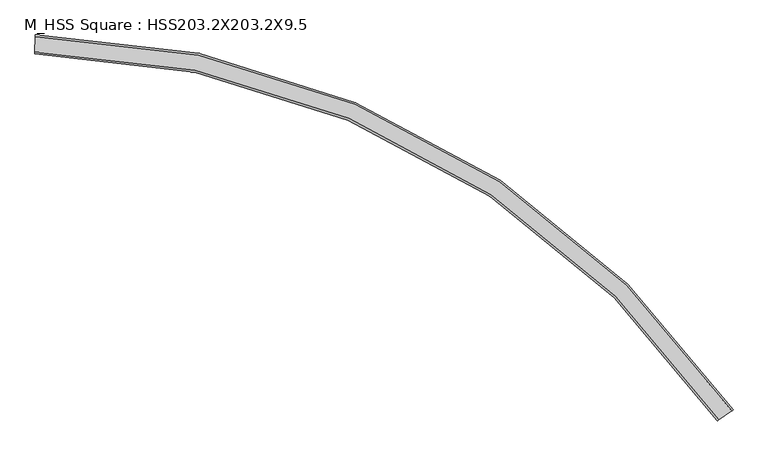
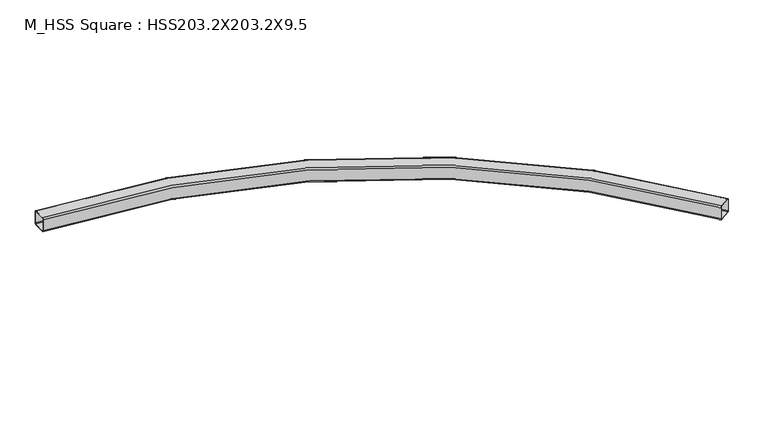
"""IFC4 building model written with IfcOpenShell, lengths in millimetres: beam geometry, M_HSS Square : HSS203.2X203.2X9.5."""

from ifc_helpers import new_model, si_unit, point, frame, origin, place, context, project, spatial, polyline, circle_curve, ellipse_curve, trimmed, source, transform, mapped, element, save
from ifc_brep_helpers import plane_surface, cylinder_surface, revolved_surface, advanced_brep


def m_hss_square_hss203_2x203_2x9_5_28e91a4e(model_context):
    return source(origin(), model_context, "Body", "AdvancedBrep", [
        advanced_brep(
        [(163.5555169, -102.979176, 82.44), (163.9002413, -83.9222937, 101.5), (166.8823064, 80.9307369, 101.5), (167.2270308, 99.9876192, 82.44), (167.2270308, 99.9876192, -82.44), (166.8823064, 80.9307369, -101.5), (163.9002413, -83.9222937, -101.5), (163.5555169, -102.979176, -82.44), (166.8823064, 80.9307369, 91.97), (163.9002413, -83.9222937, 91.97), (163.7278791, -93.4507349, 82.44), (163.7278791, -93.4507349, -82.44), (163.9002413, -83.9222937, -91.97), (166.8823064, 80.9307369, -91.97), (167.0546686, 90.4591781, -82.44), (167.0546686, 90.4591781, 82.44), (7450.0863149, -4018.815879, 82.44), (7450.0863149, -4018.815879, -82.44), (7465.7887912, -4008.0123685, -101.5), (7601.6242734, -3914.5557681, -101.5), (7617.3267497, -3903.7522576, -82.44), (7617.3267497, -3903.7522576, 82.44), (7601.6242734, -3914.5557681, 101.5), (7465.7887912, -4008.0123685, 101.5), (7601.6242734, -3914.5557681, 91.97), (7609.4755116, -3909.1540128, 82.44), (7609.4755116, -3909.1540128, -82.44), (7601.6242734, -3914.5557681, -91.97), (7465.7887912, -4008.0123685, -91.97), (7457.9375531, -4013.4141238, -82.44), (7457.9375531, -4013.4141238, 82.44), (7465.7887912, -4008.0123685, 91.97)],
        [
            (0, 1, circle_curve(frame((163.9002413, -83.9222937, 82.44), z_axis=(-0.9998364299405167, 0.01808627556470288, 0.0), x_axis=(0.01808627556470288, 0.9998364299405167, 0.0)), 19.06)),
            (1, 2),
            (2, 3, circle_curve(frame((166.8823064, 80.9307369, 82.44), z_axis=(-0.9998364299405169, 0.018086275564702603, 0.0), x_axis=(0.018086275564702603, 0.9998364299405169, 0.0)), 19.06)),
            (3, 4),
            (4, 5, circle_curve(frame((166.8823064, 80.9307369, -82.44), z_axis=(-0.9998364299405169, 0.018086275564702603, 0.0), x_axis=(0.018086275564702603, 0.9998364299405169, 0.0)), 19.06)),
            (5, 6),
            (6, 7, circle_curve(frame((163.9002413, -83.9222937, -82.44), z_axis=(-0.9998364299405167, 0.01808627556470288, 0.0), x_axis=(0.01808627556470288, 0.9998364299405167, 0.0)), 19.06)),
            (7, 0),
            (8, 9),
            (9, 10, circle_curve(frame((163.9002413, -83.9222937, 82.44), z_axis=(0.9998364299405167, -0.01808627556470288, 0.0), x_axis=(0.01808627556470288, 0.9998364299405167, 0.0)), 9.53)),
            (10, 11),
            (11, 12, circle_curve(frame((163.9002413, -83.9222937, -82.44), z_axis=(0.9998364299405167, -0.01808627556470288, 0.0), x_axis=(0.01808627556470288, 0.9998364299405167, 0.0)), 9.53)),
            (12, 13),
            (13, 14, circle_curve(frame((166.8823064, 80.9307369, -82.44), z_axis=(0.9998364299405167, -0.01808627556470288, 0.0), x_axis=(0.01808627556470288, 0.9998364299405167, 0.0)), 9.53)),
            (14, 15),
            (15, 8, circle_curve(frame((166.8823064, 80.9307369, 82.44), z_axis=(0.9998364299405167, -0.01808627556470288, 0.0), x_axis=(0.01808627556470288, 0.9998364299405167, 0.0)), 9.53)),
            (16, 17),
            (17, 18, circle_curve(frame((7465.7887912, -4008.0123685, -82.44), z_axis=(0.5668158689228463, -0.823844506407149, 0.0), x_axis=(0.823844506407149, 0.5668158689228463, 0.0)), 19.06)),
            (18, 19),
            (19, 20, circle_curve(frame((7601.6242734, -3914.5557681, -82.44), z_axis=(0.5668158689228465, -0.8238445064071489, 0.0), x_axis=(0.8238445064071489, 0.5668158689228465, 0.0)), 19.06)),
            (20, 21),
            (21, 22, circle_curve(frame((7601.6242734, -3914.5557681, 82.44), z_axis=(0.5668158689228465, -0.8238445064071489, 0.0), x_axis=(0.8238445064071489, 0.5668158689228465, 0.0)), 19.06)),
            (22, 23),
            (23, 16, circle_curve(frame((7465.7887912, -4008.0123685, 82.44), z_axis=(0.5668158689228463, -0.823844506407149, 0.0), x_axis=(0.823844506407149, 0.5668158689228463, 0.0)), 19.06)),
            (24, 25, circle_curve(frame((7601.6242734, -3914.5557681, 82.44), z_axis=(-0.5668158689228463, 0.823844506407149, 0.0), x_axis=(0.823844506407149, 0.5668158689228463, 0.0)), 9.53)),
            (25, 26),
            (26, 27, circle_curve(frame((7601.6242734, -3914.5557681, -82.44), z_axis=(-0.5668158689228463, 0.823844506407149, 0.0), x_axis=(0.823844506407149, 0.5668158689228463, 0.0)), 9.53)),
            (27, 28),
            (28, 29, circle_curve(frame((7465.7887912, -4008.0123685, -82.44), z_axis=(-0.5668158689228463, 0.823844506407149, 0.0), x_axis=(0.823844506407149, 0.5668158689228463, 0.0)), 9.53)),
            (29, 30),
            (30, 31, circle_curve(frame((7465.7887912, -4008.0123685, 82.44), z_axis=(-0.5668158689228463, 0.823844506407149, 0.0), x_axis=(0.823844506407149, 0.5668158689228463, 0.0)), 9.53)),
            (31, 24),
            (0, 16, circle_curve(frame((0.0, -9144.5733676, 82.44), z_axis=(0.0, 0.0, -1.0), x_axis=(0.8332810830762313, 0.5528495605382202, 0.0)), 9043.0733676)),
            (23, 1, circle_curve(frame((0.0, -9144.5733676, 101.5), z_axis=(0.0, 0.0, 1.0), x_axis=(0.8332810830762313, 0.5528495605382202, 0.0)), 9062.1333676)),
            (22, 2, circle_curve(frame((0.0, -9144.5733676, 101.5), z_axis=(0.0, 0.0, 1.0), x_axis=(0.8332810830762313, 0.5528495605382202, 0.0)), 9227.0133676)),
            (21, 3, circle_curve(frame((0.0, -9144.5733676, 82.44), z_axis=(0.0, 0.0, 1.0), x_axis=(0.8332810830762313, 0.5528495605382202, 0.0)), 9246.0733676)),
            (20, 4, circle_curve(frame((0.0, -9144.5733676, -82.44), z_axis=(0.0, 0.0, 1.0), x_axis=(0.8332810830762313, 0.5528495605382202, 0.0)), 9246.0733676)),
            (19, 5, circle_curve(frame((0.0, -9144.5733676, -101.5), z_axis=(0.0, 0.0, 1.0), x_axis=(0.8332810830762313, 0.5528495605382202, 0.0)), 9227.0133676)),
            (18, 6, circle_curve(frame((0.0, -9144.5733676, -101.5), z_axis=(0.0, 0.0, 1.0), x_axis=(0.8332810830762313, 0.5528495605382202, 0.0)), 9062.1333676)),
            (17, 7, circle_curve(frame((0.0, -9144.5733676, -82.44), z_axis=(0.0, 0.0, 1.0), x_axis=(0.8332810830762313, 0.5528495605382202, 0.0)), 9043.0733676)),
            (8, 24, circle_curve(frame((0.0, -9144.5733676, 91.97), z_axis=(0.0, 0.0, -1.0), x_axis=(0.8332810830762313, 0.5528495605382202, 0.0)), 9227.0133676)),
            (31, 9, circle_curve(frame((0.0, -9144.5733676, 91.97), z_axis=(0.0, 0.0, 1.0), x_axis=(0.8332810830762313, 0.5528495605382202, 0.0)), 9062.1333676)),
            (30, 10, circle_curve(frame((0.0, -9144.5733676, 82.44), z_axis=(0.0, 0.0, 1.0), x_axis=(0.8332810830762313, 0.5528495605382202, 0.0)), 9052.6033676)),
            (29, 11, circle_curve(frame((0.0, -9144.5733676, -82.44), z_axis=(0.0, 0.0, 1.0), x_axis=(0.8332810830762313, 0.5528495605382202, 0.0)), 9052.6033676)),
            (28, 12, circle_curve(frame((0.0, -9144.5733676, -91.97), z_axis=(0.0, 0.0, 1.0), x_axis=(0.8332810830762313, 0.5528495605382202, 0.0)), 9062.1333676)),
            (27, 13, circle_curve(frame((0.0, -9144.5733676, -91.97), z_axis=(0.0, 0.0, 1.0), x_axis=(0.8332810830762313, 0.5528495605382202, 0.0)), 9227.0133676)),
            (26, 14, circle_curve(frame((0.0, -9144.5733676, -82.44), z_axis=(0.0, 0.0, 1.0), x_axis=(0.8332810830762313, 0.5528495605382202, 0.0)), 9236.5433676)),
            (25, 15, circle_curve(frame((0.0, -9144.5733676, 82.44), z_axis=(0.0, 0.0, 1.0), x_axis=(0.8332810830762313, 0.5528495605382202, 0.0)), 9236.5433676)),
        ],
        [
            plane_surface(frame((165.3912738, -1.4957784, 0.0), z_axis=(-0.9998364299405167, 0.018086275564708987, 0.0), x_axis=(0.0, 0.0, 1.0))),
            plane_surface(frame((7533.7065323, -3961.2840683, 0.0), z_axis=(0.5668158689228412, -0.8238445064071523, 0.0), x_axis=(0.0, 0.0, 1.0))),
            revolved_surface(trimmed(ellipse_curve(frame((7551.3043075, -4134.5769178, 82.44), z_axis=(-0.5528495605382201, 0.8332810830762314, 0.0), x_axis=(0.8332810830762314, 0.5528495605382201, 0.0)), 19.06, 19.06), [point((7535.4219701, -4145.1142304, 82.44))], [point((7551.3043075, -4134.5769178, 101.5))], True, "CARTESIAN"), (0.0, -9144.5733676, 0.0), (0.0, 0.0, -1.0000000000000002)),
            plane_surface(frame((0.0, -9144.5733676, 101.5), z_axis=(0.0, 0.0, 1.0000000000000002), x_axis=(0.8332810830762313, 0.5528495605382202, 0.0))),
            revolved_surface(trimmed(ellipse_curve(frame((7688.6956925, -4043.4230822, 82.44), z_axis=(-0.5528495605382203, 0.8332810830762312, 0.0), x_axis=(0.8332810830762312, 0.5528495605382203, 0.0)), 19.06, 19.06), [point((7688.6956925, -4043.4230822, 101.5))], [point((7704.5780299, -4032.8857696, 82.44))], True, "CARTESIAN"), (0.0, -9144.5733676, 0.0), (0.0, 0.0, -1.0000000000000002)),
            cylinder_surface(frame((0.0, -9144.5733676, 0.0), z_axis=(0.0, 0.0, -1.0000000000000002), x_axis=(0.8332810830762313, 0.5528495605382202, 0.0)), 9246.0733676),
            revolved_surface(trimmed(ellipse_curve(frame((7688.6956925, -4043.4230822, -82.44), z_axis=(-0.5528495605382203, 0.8332810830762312, 0.0), x_axis=(0.8332810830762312, 0.5528495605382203, 0.0)), 19.06, 19.06), [point((7704.5780299, -4032.8857696, -82.44))], [point((7688.6956925, -4043.4230822, -101.5))], True, "CARTESIAN"), (0.0, -9144.5733676, 0.0), (0.0, 0.0, -1.0000000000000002)),
            plane_surface(frame((0.0, -9144.5733676, -101.5), z_axis=(0.0, 0.0, -1.0000000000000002), x_axis=(0.8332810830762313, 0.5528495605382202, 0.0))),
            revolved_surface(trimmed(ellipse_curve(frame((7551.3043075, -4134.5769178, -82.44), z_axis=(-0.5528495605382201, 0.8332810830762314, 0.0), x_axis=(0.8332810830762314, 0.5528495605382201, 0.0)), 19.06, 19.06), [point((7551.3043075, -4134.5769178, -101.5))], [point((7535.4219701, -4145.1142304, -82.44))], True, "CARTESIAN"), (0.0, -9144.5733676, 0.0), (0.0, 0.0, -1.0000000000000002)),
            revolved_surface(polyline([(7535.42197009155, -4145.1142304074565, -82.44000000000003), (7535.42197009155, -4145.1142304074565, 82.44000000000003)]), (0.0, -9144.5733676, 0.0), (0.0, 0.0, -1.0000000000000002)),
            plane_surface(frame((0.0, -9144.5733676, 91.97), z_axis=(0.0, 0.0, -1.0000000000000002), x_axis=(0.8332810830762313, 0.5528495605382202, 0.0))),
            revolved_surface(trimmed(ellipse_curve(frame((7551.3043075, -4134.5769178, 82.44), z_axis=(0.5528495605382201, -0.8332810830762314, 0.0), x_axis=(0.8332810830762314, 0.5528495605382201, 0.0)), 9.53, 9.53), [point((7551.3043075, -4134.5769178, 91.97))], [point((7543.3631388, -4139.8455741, 82.44))], True, "CARTESIAN"), (0.0, -9144.5733676, 0.0), (0.0, 0.0, -1.0000000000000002)),
            cylinder_surface(frame((0.0, -9144.5733676, 0.0), z_axis=(0.0, 0.0, -1.0000000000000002), x_axis=(0.8332810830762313, 0.5528495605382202, 0.0)), 9052.6033676),
            revolved_surface(trimmed(ellipse_curve(frame((7551.3043075, -4134.5769178, -82.44), z_axis=(0.5528495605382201, -0.8332810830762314, 0.0), x_axis=(0.8332810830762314, 0.5528495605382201, 0.0)), 9.53, 9.53), [point((7543.3631388, -4139.8455741, -82.44))], [point((7551.3043075, -4134.5769178, -91.97))], True, "CARTESIAN"), (0.0, -9144.5733676, 0.0), (0.0, 0.0, -1.0000000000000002)),
            plane_surface(frame((0.0, -9144.5733676, -91.97), z_axis=(0.0, 0.0, 1.0000000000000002), x_axis=(0.8332810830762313, 0.5528495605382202, 0.0))),
            revolved_surface(trimmed(ellipse_curve(frame((7688.6956925, -4043.4230822, -82.44), z_axis=(0.5528495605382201, -0.8332810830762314, 0.0), x_axis=(0.8332810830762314, 0.5528495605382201, 0.0)), 9.53, 9.53), [point((7688.6956925, -4043.4230822, -91.97))], [point((7696.6368612, -4038.1544259, -82.44))], True, "CARTESIAN"), (0.0, -9144.5733676, 0.0), (0.0, 0.0, -1.0000000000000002)),
            revolved_surface(polyline([(7696.636861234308, -4038.154425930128, -82.44000000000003), (7696.636861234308, -4038.154425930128, 82.44000000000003)]), (0.0, -9144.5733676, 0.0), (0.0, 0.0, -1.0000000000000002)),
            revolved_surface(trimmed(ellipse_curve(frame((7688.6956925, -4043.4230822, 82.44), z_axis=(0.5528495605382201, -0.8332810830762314, 0.0), x_axis=(0.8332810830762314, 0.5528495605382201, 0.0)), 9.53, 9.53), [point((7696.6368612, -4038.1544259, 82.44))], [point((7688.6956925, -4043.4230822, 91.97))], True, "CARTESIAN"), (0.0, -9144.5733676, 0.0), (0.0, 0.0, -1.0000000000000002)),
        ],
        [
            (0, [[1, 2, 3, 4, 5, 6, 7, 8], [9, 10, 11, 12, 13, 14, 15, 16]]),
            (1, [[17, 18, 19, 20, 21, 22, 23, 24], [25, 26, 27, 28, 29, 30, 31, 32]]),
            (2, [[-1, 33, -24, 34]]),
            (3, [[-2, -34, -23, 35]]),
            (4, [[-3, -35, -22, 36]]),
            (5, [[-4, -36, -21, 37]]),
            (6, [[-5, -37, -20, 38]]),
            (7, [[-6, -38, -19, 39]]),
            (8, [[-7, -39, -18, 40]]),
            (9, [[-8, -40, -17, -33]]),
            (10, [[-9, 41, -32, 42]]),
            (11, [[-10, -42, -31, 43]]),
            (12, [[-11, -43, -30, 44]]),
            (13, [[-12, -44, -29, 45]]),
            (14, [[-13, -45, -28, 46]]),
            (15, [[-14, -46, -27, 47]]),
            (16, [[-15, -47, -26, 48]]),
            (17, [[-16, -48, -25, -41]]),
        ],
    ),
    ])


if __name__ == "__main__":
    model = new_model("IFC4")
    model_context = context("Model", 3, world=origin())
    ifc_project = project(units=[si_unit("LENGTHUNIT", "METRE", prefix="MILLI")], contexts=[model_context])
    site = spatial("IfcSite", under=ifc_project)
    building = spatial("IfcBuilding", under=site)
    placement = place(None, origin())
    m_hss_square_hss203_2x203_2x9_5_shape = m_hss_square_hss203_2x203_2x9_5_28e91a4e(model_context)
    element("IfcBeam", 1, ObjectType="M_HSS Square : HSS203.2X203.2X9.5", at=placement, inside=building, context=model_context, shape_type="MappedRepresentation", body=[
        mapped(m_hss_square_hss203_2x203_2x9_5_shape, transform((0.0, 0.0, 0.0), x_axis=(1.0, 0.0, 0.0), y_axis=(0.0, 1.0, 0.0), z_axis=(0.0, 0.0, 1.0))),
    ])
    save(model, "model.ifc")
